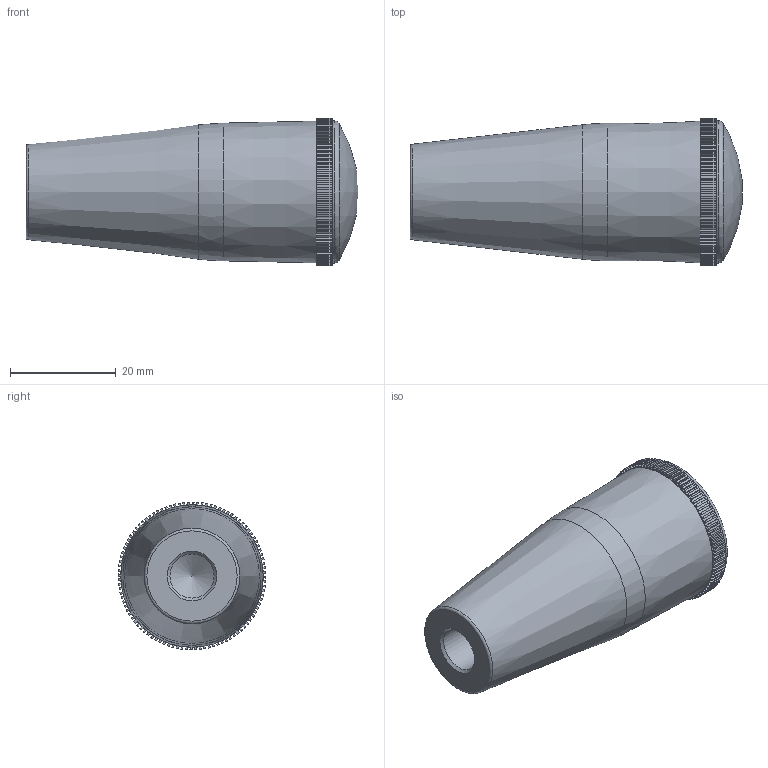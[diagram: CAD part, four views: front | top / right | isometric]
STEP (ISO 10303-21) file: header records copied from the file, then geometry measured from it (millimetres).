
FILE_DESCRIPTION(/* description */ (''),/* implementation_level */ '2;1');
FILE_NAME(/* name */ '\\SYNOLOGYNAS\web\db2\XOG_M\도면\XOG10-63.stp',/* time_stamp */ '2026-05-15T15:27:06+09:00',/* author */ ('user'),/* organization */ (''),/* preprocessor_version */ 'ST-DEVELOPER v15.6',/* originating_system */ 'Autodesk Inventor 2015',/* authorisation */ '');
FILE_SCHEMA (('AUTOMOTIVE_DESIGN { 1 0 10303 214 3 1 1 }'));
Length unit declared in the file: millimetre
Products named in the file (1): XOG10-63
Bounding box: 62.89 x 28 x 28 mm (x, y, z)
Volume: 26825.9 mm3; surface area: 6148.9 mm2
Topology: 1 solids, 1 shells, 413 faces, 1224 edges, 815 vertices
Faces by surface type: plane 203, cylinder 201, cone 5, torus 2, sphere 1, bspline 1
Full cylindrical faces by diameter (mm): 8.376 x1
Entity records: 13894 total; most frequent: CARTESIAN_POINT 2465, DIRECTION 2448, ORIENTED_EDGE 2424, EDGE_CURVE 1212, AXIS2_PLACEMENT_3D 824, VERTEX_POINT 811, LINE 800, VECTOR 800
